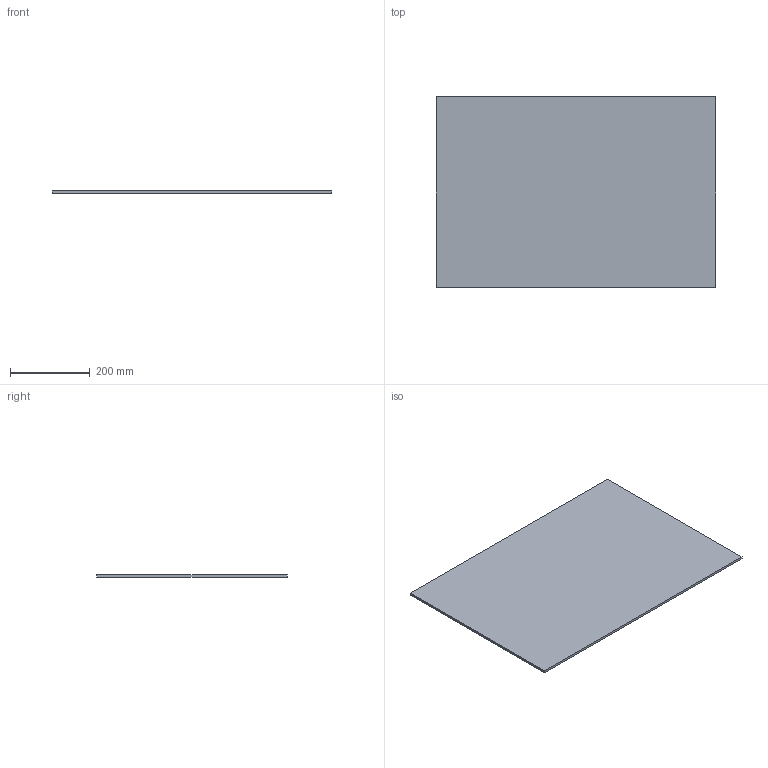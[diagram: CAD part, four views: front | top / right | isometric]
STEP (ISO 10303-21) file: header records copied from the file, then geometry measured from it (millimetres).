
FILE_DESCRIPTION (( 'STEP AP214' ), '1' );
FILE_NAME ('Lochblech_NL500_KAB800_19.step', '2010-10-11T13:38:37', ( 'grass' ), ( '' ), 'SwSTEP 2.0', 'SolidWorks 2010', '' );
FILE_SCHEMA (( 'AUTOMOTIVE_DESIGN' ));
Length unit declared in the file: millimetre
Products named in the file (1): Lochblech_NL500_KAB800_19
Bounding box: 702 x 479 x 6 mm (x, y, z)
Volume: 2017548 mm3; surface area: 686688 mm2
Topology: 1 solids, 1 shells, 6 faces, 12 edges, 8 vertices
Faces by surface type: plane 6
Entity records: 190 total; most frequent: CARTESIAN_POINT 27, DIRECTION 26, ORIENTED_EDGE 24, EDGE_CURVE 12, LINE 12, VECTOR 12, VERTEX_POINT 8, AXIS2_PLACEMENT_3D 7
